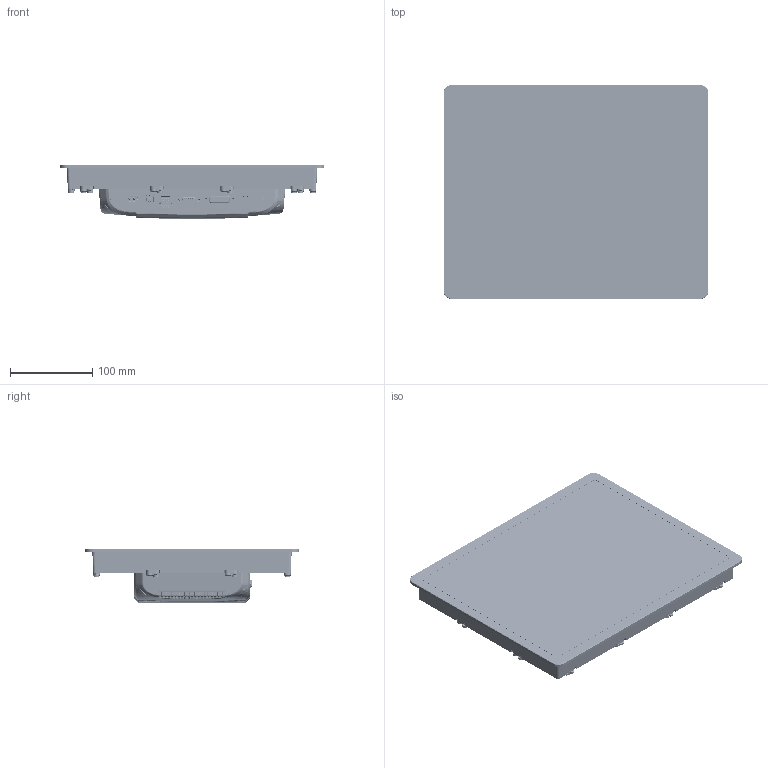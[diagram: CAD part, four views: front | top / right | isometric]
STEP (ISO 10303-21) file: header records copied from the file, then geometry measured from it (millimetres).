
FILE_DESCRIPTION(/* description */ (''),/* implementation_level */ '2;1');
FILE_NAME(/* name */ '12.1.stp',/* time_stamp */ '2026-03-11T15:54:30+08:00',/* author */ (''),/* organization */ (''),/* preprocessor_version */ 'ST-DEVELOPER v16',/* originating_system */ 'SIEMENS PLM Software NX 10.0',/* authorisation */ '');
FILE_SCHEMA (('AP203_CONFIGURATION_CONTROLLED_3D_DESIGN_OF_MECHANICAL_PARTS_AND_ASSEMBLIES_MIM_LF { 1 0 10303 403 2 1 2}'));
Products named in the file (1): Admi03F87D75pqxs
Bounding box: 321 x 260 x 66.1 mm (x, y, z)
Volume: 667513.7 mm3; surface area: 635092.7 mm2
Topology: 150 solids, 162 shells, 14263 faces, 35144 edges, 21394 vertices
Faces by surface type: plane 5722, cylinder 4455, bspline 2599, torus 779, sphere 360, cone 348
Full cylindrical faces by diameter (mm): 4.2 x4, 4.5 x1, 5.4 x4, 6 x12, 7 x12
Entity records: 521931 total; most frequent: CARTESIAN_POINT 210798, ORIENTED_EDGE 69630, DIRECTION 58550, EDGE_CURVE 34815, VERTEX_POINT 21360, AXIS2_PLACEMENT_3D 20427, LINE 17696, VECTOR 17696
